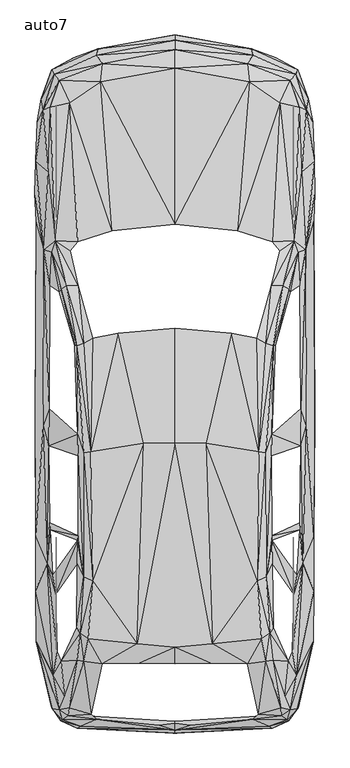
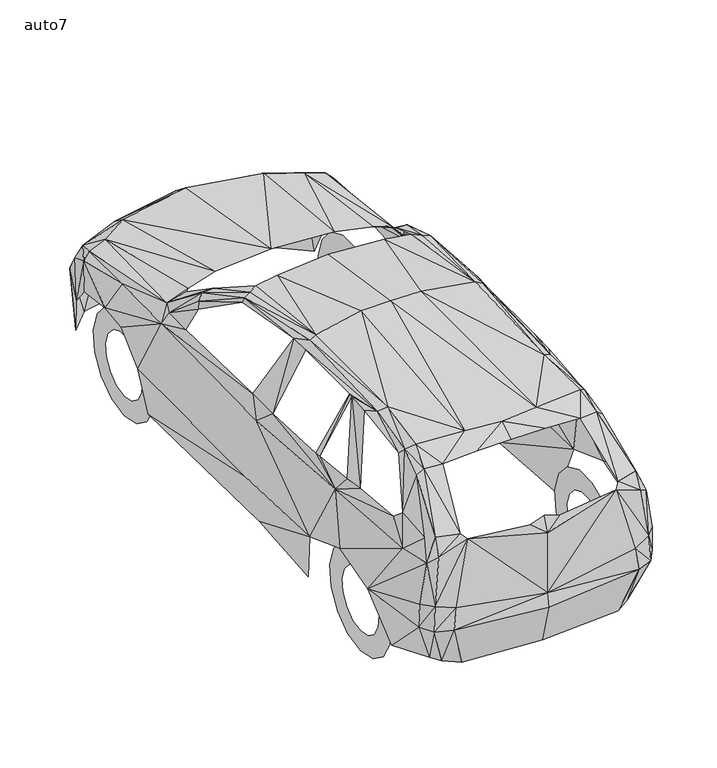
"""IFC4 building model written with IfcOpenShell, lengths in millimetres: proxy geometry, M_RPC maschio : auto7."""

from ifc_helpers import new_model, si_unit, origin, place, context, project, spatial, triangles, source, transform, mapped, element, save


def auto7_87290f92(model_context):
    return source(origin(), model_context, "Body", "Tessellation", [
        triangles([(785.2977058, -418.4087268, 304.478944), (667.9872791, -651.3568989, 317.0683645), (620.4467943, -712.5872458, 314.9554484), (521.7123413, -775.754393, 307.1200619), (0.0, -807.9762634, 302.8942479), (881.391041, 362.3550261, 628.2381792), (833.5424355, 462.0138777, 270.4082766), (0.0, 3507.0234352, 307.5162586), (640.475441, 3386.8517006, 301.6617286), (799.515806, 1085.1898659, 270.7164155), (795.7302086, 3212.2286385, 328.7333502), (841.8180204, 2297.6912922, 307.6923017), (756.9935469, 2228.5815571, 1106.2397438), (744.184009, -369.5036814, 1168.3504148), (754.8366291, -3.662375, 1149.202165), (771.7398851, 114.8806059, 1150.6988033), (495.6531398, -795.2107635, 1180.3235939), (99.4827812, -834.343622, 1165.1370209), (0.0, -864.8927021, 1091.8895296), (732.6951027, -736.7976139, 1057.9069382), (674.0618357, -774.2577547, 1100.297156), (697.0397209, -650.52054, 1172.0920469), (769.0106913, -517.4513369, 1042.1041237), (0.0, 2333.7867634, 1158.9743883), (663.4972916, 2166.3828827, 1186.4421885), (781.1599497, 2158.4153458, 1085.5508177), (792.3847733, 1947.3886917, 1098.0081968), (397.6670059, 2291.660701, 1164.8729382), (616.5291555, 2223.6514801, 1162.495903), (885.2647144, 1103.5017569, 608.2975722), (879.1460472, 2351.966613, 607.9454498), (833.8505562, 1060.2311422, 1008.6057323), (828.6123585, 2172.1492458, 1015.0764856), (796.3904881, 1168.5617392, 1120.501882), (886.0570353, 2530.9475487, 792.7808973), (765.3130972, 3281.866539, 788.6871792), (494.8167809, 3401.2016968, 805.4143559), (872.4111385, 2982.4496407, 765.1370178), (844.6792557, 3126.7879234, 604.0277384), (0.0, 3530.7496033, 703.4665089), (0.0, 3496.3267044, 809.1119499), (780.1475115, 3310.3467773, 700.781353), (485.4847561, 3444.5164948, 708.7488173), (881.7431997, 2731.1457939, 808.4516705), (832.3099525, 3058.2063538, 926.4664146), (788.7311445, 3072.2482292, 969.0327118), (802.8172033, 2666.7901291, 990.7780415), (731.9027092, 3244.8025223, 884.9125557), (0.0, 3437.649472, 896.401462), (0.0, 3319.2825691, 991.7465143), (457.8849146, 3348.731353, 897.7220209), (664.7298471, 3103.5457375, 990.6460001), (470.9585352, 3234.7662163, 979.7292973), (596.6325866, -840.8584133, 757.1696262), (0.0, -862.2956223, 666.7547235), (713.2826975, -799.3045544, 780.8957943), (880.3786028, 17.9069, 756.9935469), (878.089571, -305.1920546, 665.6982473), (776.0537207, -730.4149366, 779.355118), (618.5979973, -851.9071575, 611.9952026), (0.0, -882.6323896, 577.6604161), (780.4115942, -721.5670755, 612.083206), (721.2501617, -803.9265106, 604.6440162), (809.5081467, 190.9453035, 1044.5691622), (797.9751297, 935.2174067, 1121.5143202), (791.9005732, 445.9029425, 1135.3802616), (790.0077381, 402.9844866, 1139.0338177), (576.6919796, 1582.9119564, 1508.1325092), (720.8099997, 1923.3982956, 1287.4656006), (622.8678675, 1565.2162342, 1497.7440445), (519.0712234, 1613.9892746, 1513.3268143), (634.9730879, 1567.7253834, 1468.2073299), (358.0059457, 1644.9786621, 1515.3076527), (0.0, 1675.1755108, 1518.3449673), (683.7900209, 1944.3954151, 1323.2969891), (611.2028091, 1945.671936, 1328.8874908), (732.4749853, 1906.0989155, 1244.7232967), (239.2428823, -316.9891179, 1563.3323376), (549.1801778, -286.5720428, 1558.0059185), (600.418184, -251.3568958, 1520.1936916), (459.2054735, -445.7444856, 1484.8465759), (578.0565765, 105.9007398, 1562.8480648), (617.101359, 186.58743, 1535.16022), (0.0, -444.8200871, 1497.127803), (0.0, -340.5392429, 1563.2002235), (612.2152473, 870.9937832, 1545.1524879), (533.5974807, 896.4807449, 1609.8603115), (577.8804972, 889.4377155, 1588.5550713), (615.252562, 1005.5155867, 1547.4414471), (613.0516062, 364.776063, 1543.9638977), (528.5352897, -765.2338869, 1210.1684292), (670.3642416, -722.0073103, 1209.067915), (577.2642557, -428.4450328, 1481.7211853), (718.3889265, -430.1617885, 1222.2736496), (619.3903908, -422.9866814, 1449.4112389), (0.0, -821.049884, 1190.0957445), (622.7797915, -218.3867063, 1482.9536682), (227.7539397, -442.7952106, 1494.7067299), (613.7559237, 336.691985, 1543.787891), (521.844419, 81.1180864, 1592.2086273), (198.5693839, 950.359869, 1628.1280918), (0.0, 948.2910273, 1630.8132477), (-785.2977058, -418.4087268, 304.478944), (-667.9872791, -651.3568989, 317.0683645), (-620.4467943, -712.5872458, 314.9554484), (-521.7123413, -775.754393, 307.1200619), (-881.391041, 362.3550261, 628.2381792), (-833.5424355, 462.0138777, 270.4082766), (-640.475441, 3386.8517006, 301.6617286), (-799.515806, 1085.1898659, 270.7164155), (-795.7302086, 3212.2286385, 328.7333502), (-841.8180204, 2297.6912922, 307.6923017), (-756.9935469, 2228.5815571, 1106.2397438), (-744.184009, -369.5036814, 1168.3504148), (-754.8366291, -3.662375, 1149.202165), (-771.7398851, 114.8806059, 1150.6988033), (-495.6531398, -795.2107635, 1180.3235939), (-99.4827812, -834.343622, 1165.1370209), (-732.6951027, -736.7976139, 1057.9069382), (-674.0618357, -774.2577547, 1100.297156), (-697.0397209, -650.52054, 1172.0920469), (-769.0106913, -517.4513369, 1042.1041237), (-663.4972916, 2166.3828827, 1186.4421885), (-781.1599497, 2158.4153458, 1085.5508177), (-792.3847733, 1947.3886917, 1098.0081968), (-397.6670059, 2291.660701, 1164.8729382), (-616.5291555, 2223.6514801, 1162.495903), (-885.2206764, 1103.5017569, 608.2975722), (-879.1460472, 2351.966613, 607.9454498), (-833.8505562, 1060.2311422, 1008.6057323), (-828.6123585, 2172.1052078, 1015.0764856), (-796.3904881, 1168.5617392, 1120.501882), (-886.0570353, 2530.9475487, 792.7808973), (-765.3130972, 3281.866539, 788.6871792), (-494.8167809, 3401.2016968, 805.4143559), (-872.4111385, 2982.4496407, 765.1370178), (-844.6792557, 3126.7879234, 604.0277384), (-780.1475115, 3310.3467773, 700.781353), (-485.4847561, 3444.5164948, 708.7488173), (-881.7431997, 2731.1457939, 808.4516705), (-832.3099525, 3058.2063538, 926.4664146), (-788.7311445, 3072.2482292, 969.0327118), (-802.8172033, 2666.7901291, 990.7780415), (-731.9027092, 3244.8025223, 884.9125557), (-457.8849146, 3348.731353, 897.7220209), (-664.7298471, 3103.5457375, 990.6460001), (-470.9585352, 3234.7662163, 979.7292973), (-596.6325866, -840.8584133, 757.1696262), (-713.2826975, -799.3045544, 780.8957943), (-880.3786028, 17.9069, 756.9935469), (-878.089571, -305.1920546, 665.6982473), (-776.0537207, -730.4149366, 779.355118), (-618.5979973, -851.9071575, 611.9952026), (-780.4115942, -721.5670755, 612.083206), (-721.2501617, -803.9265106, 604.6440162), (-809.5081467, 190.9453035, 1044.5691622), (-797.9751297, 935.2174067, 1121.5143202), (-791.9005732, 445.9029425, 1135.3802616), (-790.0077381, 402.9844866, 1139.0338177), (-576.6919796, 1582.9119564, 1508.1325092), (-720.7659616, 1923.3982956, 1287.4656006), (-622.8678675, 1565.2162342, 1497.7440445), (-519.0712234, 1613.9892746, 1513.3268143), (-634.9730879, 1567.7253834, 1468.2073299), (-358.0059457, 1644.9786621, 1515.3076527), (-683.7900209, 1944.3954151, 1323.2969891), (-611.2028091, 1945.671936, 1328.8874908), (-732.4749853, 1906.0989155, 1244.7232967), (-239.2428823, -316.9891179, 1563.3323376), (-549.1801778, -286.5720428, 1558.0059185), (-600.418184, -251.3568958, 1520.1936916), (-459.2054735, -445.7444856, 1484.8465759), (-578.0565765, 105.9007398, 1562.8480648), (-617.101359, 186.58743, 1535.16022), (-612.2152473, 870.9937832, 1545.1524879), (-533.5974807, 896.4807449, 1609.8603115), (-577.8804972, 889.4377155, 1588.5550713), (-615.252562, 1005.5155867, 1547.4414471), (-613.0516062, 364.776063, 1543.9638977), (-528.5352897, -765.2338869, 1210.1684292), (-670.3642416, -722.0073103, 1209.067915), (-577.2642557, -428.4450328, 1481.7211853), (-718.3889265, -430.1617885, 1222.2736496), (-619.3903908, -422.9866814, 1449.4112389), (-622.7358261, -218.3867063, 1482.9536682), (-227.7539397, -442.7952106, 1494.7067299), (-613.7559237, 336.691985, 1543.787891), (-521.844419, 81.1180864, 1592.2086273), (-198.5693839, 950.359869, 1628.1280918), (-750.9497297, 2733.6723839, 0.0616265), (-750.9497297, 2733.6723839, 138.3691068), (-750.9497297, 2878.4065727, 30.8308579), (-750.9497297, 2822.1504135, 157.2092086), (-750.9497297, 2998.0940346, 117.7682476), (-750.9497297, 2895.3099014, 210.3400499), (-750.9497297, 3072.0898087, 245.9073556), (-750.9497297, 2940.5173164, 288.693752), (-750.9497297, 3087.5406097, 393.0626358), (-750.9497297, 2949.9812737, 378.6244183), (-750.9497297, 3041.848922, 533.7911462), (-750.9497297, 2922.0294914, 464.6374094), (-750.9497297, 2942.8064209, 643.7504591), (-750.9497297, 2861.503244, 531.8543095), (-750.9497297, 2807.668158, 703.9243298), (-750.9497297, 2778.8797989, 568.6101328), (-750.9497297, 2659.6766098, 703.9243298), (-750.9497297, 2688.4649689, 568.6101328), (-750.9497297, 2524.5383469, 643.7504591), (-750.9497297, 2605.8415237, 531.8543095), (-750.9497297, 2425.4958458, 533.7911462), (-750.9497297, 2545.3152763, 464.6374094), (-750.9497297, 2379.804158, 393.0626358), (-750.9497297, 2517.3632034, 378.6244183), (-750.9497297, 2395.2548138, 245.9073556), (-750.9497297, 2526.8274513, 288.693752), (-750.9497297, 2469.2507332, 117.7682476), (-750.9497297, 2572.0348663, 210.3400499), (-750.9497297, 2588.938195, 30.8308579), (-750.9497297, 2645.1943542, 157.2092086), (750.9497297, 2733.6723839, 0.0616265), (750.9497297, 2733.6723839, 138.3691068), (750.9497297, 2588.938195, 30.8308579), (750.9497297, 2645.1943542, 157.2092086), (750.9497297, 2469.2507332, 117.7682476), (750.9497297, 2572.0348663, 210.3400499), (750.9497297, 2395.2548138, 245.9073556), (750.9497297, 2526.8274513, 288.693752), (750.9497297, 2379.804158, 393.0626358), (750.9497297, 2517.3632034, 378.6244183), (750.9497297, 2425.4958458, 533.7911462), (750.9497297, 2545.3152763, 464.6374094), (750.9497297, 2524.5383469, 643.7504591), (750.9497297, 2605.8415237, 531.8543095), (750.9497297, 2659.6766098, 703.9243298), (750.9497297, 2688.4649689, 568.6101328), (750.9497297, 2807.668158, 703.9243298), (750.9497297, 2778.8797989, 568.6101328), (750.9497297, 2942.8064209, 643.7504591), (750.9497297, 2861.503244, 531.8543095), (750.9497297, 3041.848922, 533.7911462), (750.9497297, 2922.0294914, 464.6374094), (750.9497297, 3087.5406097, 393.0626358), (750.9497297, 2949.9812737, 378.6244183), (750.9497297, 3072.0898087, 245.9073556), (750.9497297, 2940.5173164, 288.693752), (750.9497297, 2998.0940346, 117.7682476), (750.9497297, 2895.3099014, 210.3400499), (750.9497297, 2878.4065727, 30.8308579), (750.9497297, 2822.1504135, 157.2092086), (-750.9497297, 0.0, 0.0616265), (-750.9497297, 0.0, 138.3691068), (-750.9497297, 144.7342433, 30.8308579), (-750.9497297, 88.4780478, 157.2092086), (-750.9497297, 264.4217052, 117.7682476), (-750.9497297, 161.6375175, 210.3400499), (-750.9497297, 338.4175338, 245.9073556), (-750.9497297, 206.8449507, 288.693752), (-750.9497297, 353.8681895, 393.0626358), (-750.9497297, 216.3090169, 378.6244183), (-750.9497297, 308.1765381, 533.7911462), (-750.9497297, 188.3569985, 464.6374094), (-750.9497297, 209.133928, 643.7504591), (-750.9497297, 127.8309691, 531.8543095), (-750.9497297, 73.9958195, 703.9243298), (-750.9497297, 45.2074423, 568.6101328), (-750.9497297, -73.9958195, 703.9243298), (-750.9497297, -45.2074423, 568.6101328), (-750.9497297, -209.133928, 643.7504591), (-750.9497297, -127.8309691, 531.8543095), (-750.9497297, -308.1765381, 533.7911462), (-750.9497297, -188.3569985, 464.6374094), (-750.9497297, -353.8681895, 393.0626358), (-750.9497297, -216.3090169, 378.6244183), (-750.9497297, -338.4175338, 245.9073556), (-750.9497297, -206.8449507, 288.693752), (-750.9497297, -264.4217052, 117.7682476), (-750.9497297, -161.6375175, 210.3400499), (-750.9497297, -144.7342433, 30.8308579), (-750.9497297, -88.4780478, 157.2092086), (750.9497297, 0.0, 0.0616265), (750.9497297, 0.0, 138.3691068), (750.9497297, -144.7342433, 30.8308579), (750.9497297, -88.4780478, 157.2092086), (750.9497297, -264.4217052, 117.7682476), (750.9497297, -161.6375175, 210.3400499), (750.9497297, -338.4175338, 245.9073556), (750.9497297, -206.8449507, 288.693752), (750.9497297, -353.8681895, 393.0626358), (750.9497297, -216.3090169, 378.6244183), (750.9497297, -308.1765381, 533.7911462), (750.9497297, -188.3569985, 464.6374094), (750.9497297, -209.133928, 643.7504591), (750.9497297, -127.8309691, 531.8543095), (750.9497297, -73.9958195, 703.9243298), (750.9497297, -45.2074423, 568.6101328), (750.9497297, 73.9958195, 703.9243298), (750.9497297, 45.2074423, 568.6101328), (750.9497297, 209.133928, 643.7504591), (750.9497297, 127.8309691, 531.8543095), (750.9497297, 308.1765381, 533.7911462), (750.9497297, 188.3569985, 464.6374094), (750.9497297, 353.8681895, 393.0626358), (750.9497297, 216.3090169, 378.6244183), (750.9497297, 338.4175338, 245.9073556), (750.9497297, 206.8449507, 288.693752), (750.9497297, 264.4217052, 117.7682476), (750.9497297, 161.6375175, 210.3400499), (750.9497297, 144.7342433, 30.8308579), (750.9497297, 88.4780478, 157.2092086)], [[12, 31, 30], [12, 30, 10], [17, 18, 19], [19, 18, 96], [21, 20, 92], [92, 20, 22], [22, 23, 94], [64, 16, 15], [14, 23, 64], [14, 64, 15], [14, 94, 23], [13, 29, 25], [77, 27, 26], [69, 77, 26], [33, 32, 30], [33, 30, 31], [33, 27, 34], [33, 34, 32], [43, 40, 41], [43, 41, 37], [11, 42, 39], [9, 43, 42], [9, 42, 11], [8, 40, 43], [8, 43, 9], [39, 42, 36], [42, 43, 37], [42, 37, 36], [44, 33, 35], [45, 36, 48], [46, 45, 48], [46, 48, 52], [50, 53, 51], [49, 50, 51], [48, 51, 53], [52, 48, 53], [49, 51, 37], [49, 37, 41], [31, 35, 33], [45, 47, 44], [45, 44, 38], [51, 48, 36], [51, 36, 37], [36, 45, 39], [45, 38, 39], [24, 28, 53], [50, 24, 53], [26, 27, 33], [47, 13, 33], [33, 13, 26], [52, 53, 28], [29, 52, 28], [29, 13, 52], [52, 13, 46], [46, 13, 47], [46, 47, 45], [33, 44, 47], [59, 58, 20], [4, 3, 60], [60, 3, 63], [4, 60, 61], [4, 61, 5], [1, 62, 2], [62, 63, 2], [63, 3, 2], [10, 30, 6], [10, 6, 7], [1, 58, 62], [59, 62, 58], [60, 55, 61], [60, 54, 55], [56, 63, 62], [59, 56, 62], [54, 60, 63], [56, 54, 63], [55, 54, 17], [19, 55, 17], [56, 59, 20], [21, 56, 20], [58, 23, 20], [64, 57, 6], [17, 54, 56], [21, 17, 56], [32, 64, 6], [32, 6, 30], [57, 64, 23], [57, 23, 58], [22, 20, 23], [65, 66, 64], [65, 64, 32], [32, 34, 65], [66, 67, 64], [67, 16, 64], [68, 75, 76], [71, 68, 76], [70, 69, 75], [68, 70, 75], [69, 70, 72], [77, 69, 72], [76, 13, 25], [76, 75, 13], [75, 69, 26], [13, 75, 26], [78, 98, 81], [78, 81, 79], [82, 80, 97], [83, 82, 97], [81, 93, 79], [85, 84, 98], [85, 98, 78], [87, 88, 70], [68, 87, 70], [82, 90, 86], [88, 82, 86], [89, 88, 86], [70, 88, 89], [72, 70, 89], [87, 68, 71], [99, 90, 82], [83, 99, 82], [95, 93, 92], [91, 92, 93], [81, 91, 93], [92, 22, 95], [22, 94, 95], [15, 16, 99], [15, 99, 83], [67, 66, 90], [67, 90, 99], [91, 17, 21], [92, 91, 21], [65, 34, 89], [86, 65, 89], [93, 95, 80], [79, 93, 80], [80, 95, 94], [97, 80, 94], [78, 79, 100], [78, 101, 102], [85, 78, 102], [100, 87, 101], [78, 100, 101], [101, 73, 74], [102, 101, 74], [100, 82, 88], [87, 100, 88], [87, 71, 73], [101, 87, 73], [80, 82, 100], [79, 80, 100], [112, 128, 129], [112, 110, 128], [117, 19, 118], [19, 96, 118], [120, 181, 119], [181, 121, 119], [121, 183, 122], [156, 115, 116], [114, 156, 122], [114, 115, 156], [114, 122, 183], [113, 123, 127], [168, 124, 125], [161, 124, 168], [131, 128, 130], [131, 129, 128], [131, 132, 125], [131, 130, 132], [139, 41, 40], [139, 135, 41], [111, 137, 138], [109, 138, 139], [109, 111, 138], [8, 139, 40], [8, 109, 139], [137, 134, 138], [138, 135, 139], [138, 134, 135], [140, 133, 131], [141, 144, 134], [142, 144, 141], [142, 146, 144], [50, 145, 147], [49, 145, 50], [144, 147, 145], [146, 147, 144], [49, 135, 145], [49, 41, 135], [129, 131, 133], [141, 140, 143], [141, 136, 140], [145, 134, 144], [145, 135, 134], [134, 137, 141], [141, 137, 136], [24, 147, 126], [50, 147, 24], [124, 131, 125], [143, 131, 113], [131, 124, 113], [146, 126, 147], [127, 126, 146], [127, 146, 113], [146, 142, 113], [142, 143, 113], [142, 141, 143], [131, 143, 140], [152, 119, 151], [106, 153, 105], [153, 155, 105], [106, 61, 153], [106, 5, 61], [103, 104, 154], [154, 104, 155], [155, 104, 105], [110, 107, 128], [110, 108, 107], [103, 154, 151], [152, 151, 154], [153, 61, 55], [153, 55, 148], [149, 154, 155], [152, 154, 149], [148, 155, 153], [149, 155, 148], [55, 117, 148], [19, 117, 55], [149, 119, 152], [120, 119, 149], [151, 119, 122], [156, 107, 150], [117, 149, 148], [120, 149, 117], [130, 107, 156], [130, 128, 107], [150, 122, 156], [150, 151, 122], [121, 122, 119], [157, 156, 158], [157, 130, 156], [130, 157, 132], [158, 156, 159], [159, 156, 116], [160, 167, 166], [163, 167, 160], [162, 166, 161], [160, 166, 162], [161, 164, 162], [168, 164, 161], [167, 123, 113], [167, 113, 166], [166, 124, 161], [113, 124, 166], [169, 172, 186], [169, 170, 172], [173, 185, 171], [174, 185, 173], [172, 170, 182], [85, 186, 84], [85, 169, 186], [176, 162, 177], [160, 162, 176], [173, 175, 179], [177, 175, 173], [178, 175, 177], [162, 178, 177], [164, 178, 162], [176, 163, 160], [187, 173, 179], [174, 173, 187], [184, 181, 182], [180, 182, 181], [172, 182, 180], [181, 184, 121], [121, 184, 183], [115, 187, 116], [115, 174, 187], [159, 179, 158], [159, 187, 179], [180, 120, 117], [181, 120, 180], [157, 178, 132], [175, 178, 157], [182, 171, 184], [170, 171, 182], [171, 183, 184], [185, 183, 171], [169, 188, 170], [169, 102, 189], [85, 102, 169], [188, 189, 176], [169, 189, 188], [189, 74, 165], [102, 74, 189], [188, 177, 173], [176, 177, 188], [176, 165, 163], [189, 165, 176], [171, 188, 173], [170, 188, 171], [190, 193, 192], [190, 191, 193], [192, 195, 194], [192, 193, 195], [194, 197, 196], [194, 195, 197], [196, 199, 198], [196, 197, 199], [198, 201, 200], [198, 199, 201], [200, 203, 202], [200, 201, 203], [202, 205, 204], [202, 203, 205], [204, 207, 206], [204, 205, 207], [206, 209, 208], [206, 207, 209], [208, 211, 210], [208, 209, 211], [210, 213, 212], [210, 211, 213], [212, 215, 214], [212, 213, 215], [214, 217, 216], [214, 215, 217], [216, 219, 218], [216, 217, 219], [218, 191, 190], [218, 219, 191], [220, 223, 222], [220, 221, 223], [222, 225, 224], [222, 223, 225], [224, 227, 226], [224, 225, 227], [226, 229, 228], [226, 227, 229], [228, 231, 230], [228, 229, 231], [230, 233, 232], [230, 231, 233], [232, 235, 234], [232, 233, 235], [234, 237, 236], [234, 235, 237], [236, 239, 238], [236, 237, 239], [238, 241, 240], [238, 239, 241], [240, 243, 242], [240, 241, 243], [242, 245, 244], [242, 243, 245], [244, 247, 246], [244, 245, 247], [246, 249, 248], [246, 247, 249], [248, 221, 220], [248, 249, 221], [250, 253, 252], [250, 251, 253], [252, 255, 254], [252, 253, 255], [254, 257, 256], [254, 255, 257], [256, 259, 258], [256, 257, 259], [258, 261, 260], [258, 259, 261], [260, 263, 262], [260, 261, 263], [262, 265, 264], [262, 263, 265], [264, 267, 266], [264, 265, 267], [266, 269, 268], [266, 267, 269], [268, 271, 270], [268, 269, 271], [270, 273, 272], [270, 271, 273], [272, 275, 274], [272, 273, 275], [274, 277, 276], [274, 275, 277], [276, 279, 278], [276, 277, 279], [278, 251, 250], [278, 279, 251], [280, 283, 282], [280, 281, 283], [282, 285, 284], [282, 283, 285], [284, 287, 286], [284, 285, 287], [286, 289, 288], [286, 287, 289], [288, 291, 290], [288, 289, 291], [290, 293, 292], [290, 291, 293], [292, 295, 294], [292, 293, 295], [294, 297, 296], [294, 295, 297], [296, 299, 298], [296, 297, 299], [298, 301, 300], [298, 299, 301], [300, 303, 302], [300, 301, 303], [302, 305, 304], [302, 303, 305], [304, 307, 306], [304, 305, 307], [306, 309, 308], [306, 307, 309], [308, 281, 280], [308, 309, 281]], closed=False),
    ])


if __name__ == "__main__":
    model = new_model("IFC4")
    model_context = context("Model", 3, world=origin())
    ifc_project = project(units=[si_unit("LENGTHUNIT", "METRE", prefix="MILLI")], contexts=[model_context])
    site = spatial("IfcSite", under=ifc_project)
    building = spatial("IfcBuilding", under=site)
    placement = place(None, origin())
    auto7_shape = auto7_87290f92(model_context)
    element("IfcBuildingElementProxy", 1, Name="M_RPC maschio : auto7", ObjectType="M_RPC maschio : auto7", at=placement, inside=building, context=model_context, shape_type="MappedRepresentation", body=[
        mapped(auto7_shape, transform((0.0, 0.0, 0.0), x_axis=(1.0, 0.0, 0.0), y_axis=(0.0, 1.0, 0.0), z_axis=(0.0, 0.0, 1.0))),
    ])
    save(model, "model.ifc")
